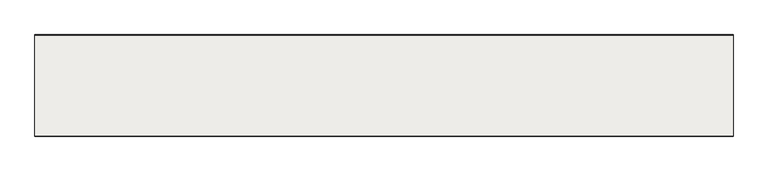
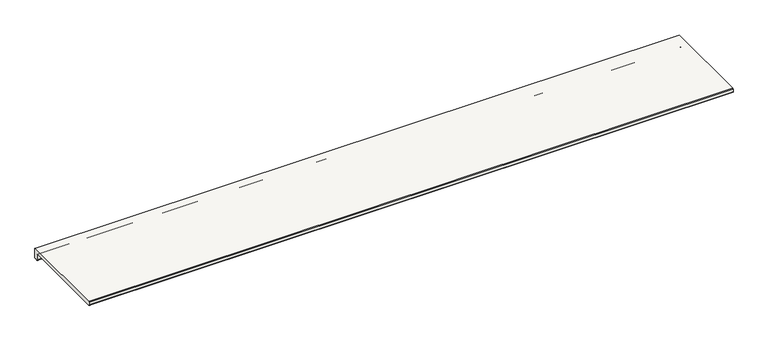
"""IFC4 building model written with IfcOpenShell, lengths in millimetres: slab geometry, ROSA GRES_L62 : Pieza L62_Tresor_Java_Anti-Slip."""

from ifc_helpers import new_model, si_unit, point, frame, frame_2d, origin, place, context, project, spatial, polyline, circle_curve, trimmed, segment, composite_curve, outline, extrude, source, transform, mapped, element, save


def slab_49bf93fa(model_context):
    return source(origin(), model_context, "Body", "SweptSolid", [
        extrude(outline(composite_curve([segment(trimmed(circle_curve(frame_2d((-12.1001991, -35.1001991)), 1.8998009), [point((-12.1001991, -37.0))], [point((-14.0, -35.1001991))], False, "CARTESIAN"), True, "CONTINUOUS"), segment(polyline([(-14.0, -35.1001991), (-14.0, -16.5836242)]), True, "CONTINUOUS"), segment(trimmed(circle_curve(frame_2d((-16.6422322, -16.5836242)), 2.6422322), [point((-14.0, -16.5836242))], [point((-16.6422322, -13.9413919))], True, "CARTESIAN"), True, "CONTINUOUS"), segment(polyline([(-16.6422322, -13.9413919), (-315.5234432, -13.9413919)]), True, "CONTINUOUS"), segment(trimmed(circle_curve(frame_2d((-315.5234432, -12.4648352)), 1.4765568), [point((-315.5234432, -13.9413919))], [point((-317.0, -12.4648352))], False, "CARTESIAN"), True, "CONTINUOUS"), segment(polyline([(-317.0, -12.4648352), (-317.0, -2.5), (-315.5, 0.0), (-2.5, 0.0), (0.0, -2.5), (0.0, -34.5)]), True, "CONTINUOUS"), segment(trimmed(circle_curve(frame_2d((-2.5, -34.5)), 2.5), [point((0.0, -34.5))], [point((-2.5, -37.0))], False, "CARTESIAN"), True, "CONTINUOUS"), segment(polyline([(-2.5, -37.0), (-5.422949, -37.0)]), True, "CONTINUOUS"), segment(trimmed(circle_curve(frame_2d((-7.4142134, -37.0)), 1.9912643), [point((-5.422949, -37.0))], [point((-9.4054777, -37.0))], True, "CARTESIAN"), True, "CONTINUOUS"), segment(polyline([(-9.4054777, -37.0), (-12.1001991, -37.0)]), True, "CONTINUOUS")], self_intersect=False)), frame((0.0, 0.0, 0.0), z_axis=(1.0, 0.0, 0.0), x_axis=(0.0, 1.0, 0.0)), (0.0, 0.0, 1.0), 2177.0),
    ])


if __name__ == "__main__":
    model = new_model("IFC4")
    model_context = context("Model", 3, world=origin())
    ifc_project = project(units=[si_unit("LENGTHUNIT", "METRE", prefix="MILLI")], contexts=[model_context])
    site = spatial("IfcSite", under=ifc_project)
    building = spatial("IfcBuilding", under=site)
    placement = place(None, origin())
    slab_shape = slab_49bf93fa(model_context)
    element("IfcSlab", 1, ObjectType="ROSA GRES_L62 : Pieza L62_Tresor_Java_Anti-Slip", at=placement, inside=building, context=model_context, shape_type="MappedRepresentation", body=[
        mapped(slab_shape, transform((0.0, 0.0, 0.0), x_axis=(1.0, 0.0, 0.0), y_axis=(0.0, 1.0, 0.0), z_axis=(0.0, 0.0, 1.0))),
    ])
    save(model, "model.ifc")
